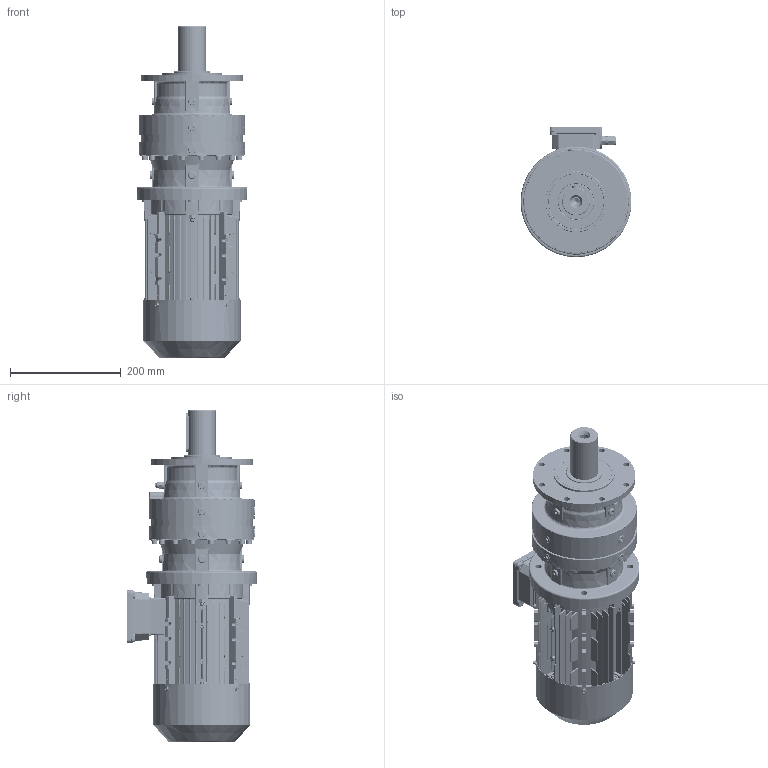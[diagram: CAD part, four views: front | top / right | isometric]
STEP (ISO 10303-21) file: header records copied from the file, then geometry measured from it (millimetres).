
FILE_DESCRIPTION (( 'STEP AP203' ), '1' );
FILE_NAME ('PVL-1101L-MX90L-4.STEP', '2019-05-17T08:13:26', ( '' ), ( '' ), 'SwSTEP 2.0', 'SolidWorks 2012', '' );
FILE_SCHEMA (( 'CONFIG_CONTROL_DESIGN' ));
Products named in the file (29): hexagon socket head cap screws gb_GB_FASTENER_SCREWS_HSHCS M6X40-N; PVL-1101L-MX90L-4; MX3-90L_B5; IE3 90L cable glandsM16_2; hexagon nuts grade c gb_GB_FASTENER_NUT_SNC1 M6-N_2; IE3 90L  oil seal_2; IE3 90L flangeB5; cross recessed pan head screws gb_GB_CROSS_SCREWS_TYPE1 M5X10-10  H type-N_2; cross recessed pan head screws gb_GB_CROSS_SCREWS_TYPE1 M4X5-5  H type-N_2; plain washers-n series-grade a gb_GB_FASTENER_WASHER_PWNA 4_2; hexagon socket head cap screws gb_GB_FASTENER_SCREWS_HSHCS M6X30-N_2; IE3 90L grouding mark_2; IE3 90L flange_2; circlips for shaft--type a large gb_GB_CONNECTING_PIECE_RING_RRA 19_2; IE3 90L terminal box cover_2; hexagon flange head tapping screws gb_GB_SQUARE_AND_HEXAGON_TYPE137 ST4.2X9.5 F-N_2; cross recessed pan head tapping screws gb_GB_CROSS_SCREWS_TYPE128 ST4.2X9.5 H C-N_2; spring lock washers--normal type gb_GB_FASTENER_WASHER_SW 6_2; IE3 90L fan_2; IE3 90L terminal box_2; IE3 90L fan cover_2; plain parallel keys_GB_CONNECTING_PIECE_KEYS_CSK 8X40_2; IE3 90L casing_2; PNL_1101L_0_0_A09_B5_ML7A_FL1A_0_0_0_0_0_0_0_0_0_0_0_M1; IE3 90L rotor_2; ML7A; 1190B5; FL1A; P11
Assembly tree (57 placements, depth 3):
  PVL-1101L-MX90L-4
    PNL_1101L_0_0_A09_B5_ML7A_FL1A_0_0_0_0_0_0_0_0_0_0_0_M1
      P11
      1190B5
      ML7A
      FL1A
    MX3-90L_B5
      IE3 90L casing_2
      IE3 90L rotor_2
      IE3 90L fan_2
      IE3 90L fan cover_2
      plain parallel keys_GB_CONNECTING_PIECE_KEYS_CSK 8X40_2
      IE3 90L terminal box_2
      IE3 90L terminal box cover_2
      spring lock washers--normal type gb_GB_FASTENER_WASHER_SW 6_2  x8
      cross recessed pan head tapping screws gb_GB_CROSS_SCREWS_TYPE128 ST4.2X9.5 H C-N_2  x4
      hexagon flange head tapping screws gb_GB_SQUARE_AND_HEXAGON_TYPE137 ST4.2X9.5 F-N_2  x4
      hexagon socket head cap screws gb_GB_FASTENER_SCREWS_HSHCS M6X30-N_2  x4
      IE3 90L flange_2
      circlips for shaft--type a large gb_GB_CONNECTING_PIECE_RING_RRA 19_2
      IE3 90L grouding mark_2
      plain washers-n series-grade a gb_GB_FASTENER_WASHER_PWNA 4_2
      cross recessed pan head screws gb_GB_CROSS_SCREWS_TYPE1 M4X5-5  H type-N_2
      cross recessed pan head screws gb_GB_CROSS_SCREWS_TYPE1 M5X10-10  H type-N_2  x4
      IE3 90L cable glandsM16_2  x2
      IE3 90L  oil seal_2
      hexagon nuts grade c gb_GB_FASTENER_NUT_SNC1 M6-N_2  x7
      IE3 90L flangeB5
      hexagon socket head cap screws gb_GB_FASTENER_SCREWS_HSHCS M6X40-N  x4
Bounding box: 200 x 235.5 x 598.9 mm (x, y, z)
Volume: 6437529.4 mm3; surface area: 1242388.4 mm2
Topology: 59 solids, 59 shells, 5784 faces, 14551 edges, 8935 vertices
Faces by surface type: plane 2153, cylinder 1831, bspline 1103, cone 436, torus 161, sphere 100
Entity records: 201084 total; most frequent: CARTESIAN_POINT 81931, ORIENTED_EDGE 25832, DIRECTION 21593, EDGE_CURVE 12916, VERTEX_POINT 8011, AXIS2_PLACEMENT_3D 7993, EDGE_LOOP 5673, VECTOR 5607
